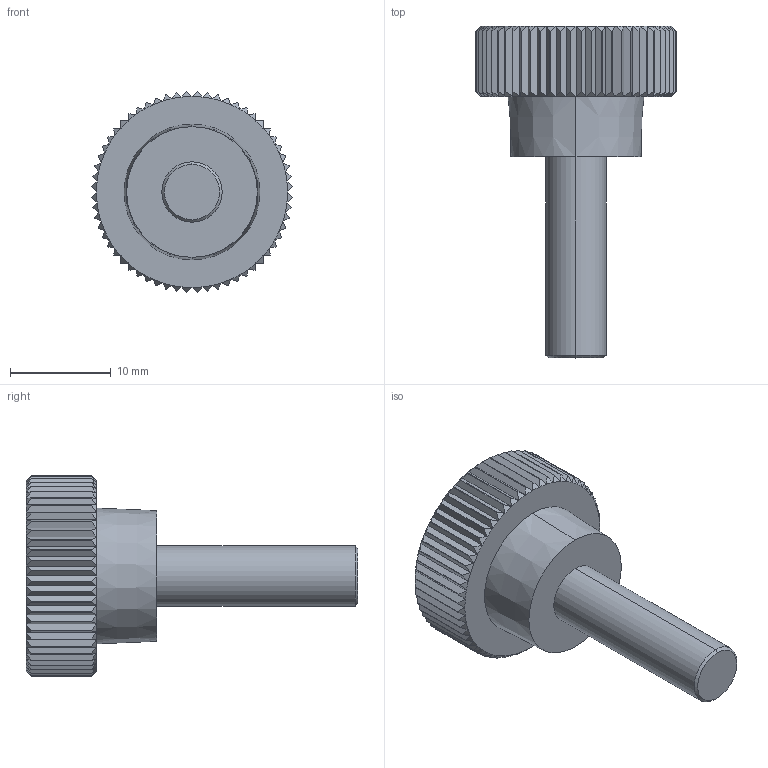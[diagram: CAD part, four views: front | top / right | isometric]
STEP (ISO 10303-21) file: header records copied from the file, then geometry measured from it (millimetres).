
FILE_DESCRIPTION (( 'STEP AP203' ), '1' );
FILE_NAME ('wn4662_20-m6x20.step', '2007-02-15T10:22:12', ( 'Magnus Fahlstrom' ), ( '' ), 'SwSTEP 2.0', 'SolidWorks 2007', '' );
FILE_SCHEMA (( 'CONFIG_CONTROL_DESIGN' ));
Length unit declared in the file: millimetre
Products named in the file (1): wn4662_20-m6x20
Bounding box: 19.98 x 33 x 19.98 mm (x, y, z)
Volume: 3416.3 mm3; surface area: 2099.8 mm2
Topology: 3 solids, 3 shells, 321 faces, 694 edges, 382 vertices
Faces by surface type: plane 129, cone 126, cylinder 66
Entity records: 8787 total; most frequent: CARTESIAN_POINT 2118, ORIENTED_EDGE 1388, DIRECTION 1360, EDGE_CURVE 694, AXIS2_PLACEMENT_3D 584, VERTEX_POINT 382, EDGE_LOOP 324, ADVANCED_FACE 321
